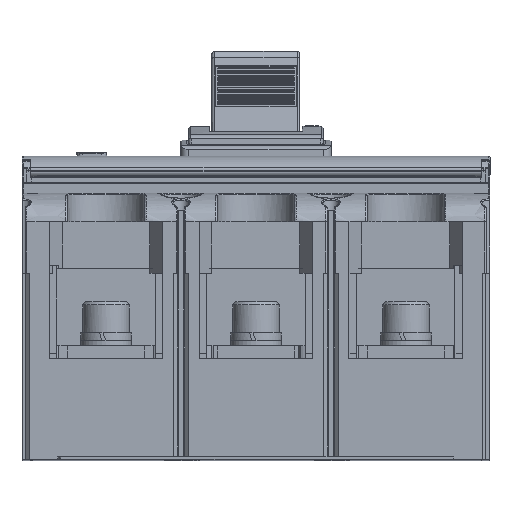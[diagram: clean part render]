
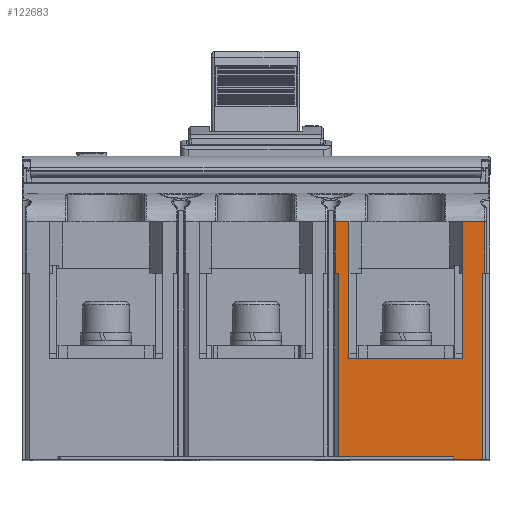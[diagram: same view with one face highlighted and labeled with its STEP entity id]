
A CAD part, top view. The second image highlights one B-rep face of the part: STEP entity #122683.
In plain terms, the highlighted planar face has unit normal (0, 0, 1).
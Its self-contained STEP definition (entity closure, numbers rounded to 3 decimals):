
#5517=DIRECTION('',(1.,0.,0.));
#5518=VECTOR('',#5517,1.1);
#5519=CARTESIAN_POINT('',(87.5,72.,135.));
#5520=LINE('',#5519,#5518);
#5645=DIRECTION('',(1.,0.,0.));
#5646=VECTOR('',#5645,10.9);
#5647=CARTESIAN_POINT('',(76.6,0.,135.));
#5648=LINE('',#5647,#5646);
#5653=DIRECTION('',(0.,-1.,0.));
#5654=VECTOR('',#5653,71.);
#5655=CARTESIAN_POINT('',(32.,72.,135.));
#5656=LINE('',#5655,#5654);
#5657=DIRECTION('',(0.,-1.,0.));
#5658=VECTOR('',#5657,20.);
#5659=CARTESIAN_POINT('',(30.9,92.,135.));
#5660=LINE('',#5659,#5658);
#5661=DIRECTION('',(1.,0.,0.));
#5662=VECTOR('',#5661,5.1);
#5663=CARTESIAN_POINT('',(30.9,92.,135.));
#5664=LINE('',#5663,#5662);
#5665=DIRECTION('',(1.,0.,0.));
#5666=VECTOR('',#5665,44.);
#5667=CARTESIAN_POINT('',(36.,39.,135.));
#5668=LINE('',#5667,#5666);
#5669=DIRECTION('',(1.,0.,0.));
#5670=VECTOR('',#5669,8.6);
#5671=CARTESIAN_POINT('',(80.,92.,135.));
#5672=LINE('',#5671,#5670);
#5673=DIRECTION('',(0.,-1.,0.));
#5674=VECTOR('',#5673,20.);
#5675=CARTESIAN_POINT('',(88.6,92.,135.));
#5676=LINE('',#5675,#5674);
#5677=DIRECTION('',(0.,1.,0.));
#5678=VECTOR('',#5677,72.);
#5679=CARTESIAN_POINT('',(87.5,0.,135.));
#5680=LINE('',#5679,#5678);
#5681=DIRECTION('',(0.,1.,0.));
#5682=VECTOR('',#5681,1.);
#5683=CARTESIAN_POINT('',(76.6,0.,135.));
#5684=LINE('',#5683,#5682);
#5685=DIRECTION('',(-1.,0.,0.));
#5686=VECTOR('',#5685,44.6);
#5687=CARTESIAN_POINT('',(76.6,1.,135.));
#5688=LINE('',#5687,#5686);
#5706=DIRECTION('',(1.,0.,0.));
#5707=VECTOR('',#5706,1.1);
#5708=CARTESIAN_POINT('',(30.9,72.,135.));
#5709=LINE('',#5708,#5707);
#17119=DIRECTION('',(0.,-1.,0.));
#17120=VECTOR('',#17119,53.);
#17121=CARTESIAN_POINT('',(80.,92.,135.));
#17122=LINE('',#17121,#17120);
#17275=DIRECTION('',(0.,1.,0.));
#17276=VECTOR('',#17275,53.);
#17277=CARTESIAN_POINT('',(36.,39.,135.));
#17278=LINE('',#17277,#17276);
#93905=CARTESIAN_POINT('',(36.,39.,135.));
#93906=CARTESIAN_POINT('',(80.,39.,135.));
#93907=VERTEX_POINT('',#93905);
#93908=VERTEX_POINT('',#93906);
#95121=CARTESIAN_POINT('',(76.6,0.,135.));
#95122=CARTESIAN_POINT('',(76.6,1.,135.));
#95123=VERTEX_POINT('',#95121);
#95124=VERTEX_POINT('',#95122);
#95854=CARTESIAN_POINT('',(87.5,0.,135.));
#95856=VERTEX_POINT('',#95854);
#95869=CARTESIAN_POINT('',(32.,1.,135.));
#95870=VERTEX_POINT('',#95869);
#101749=CARTESIAN_POINT('',(36.,92.,135.));
#101750=VERTEX_POINT('',#101749);
#101751=CARTESIAN_POINT('',(80.,92.,135.));
#101752=VERTEX_POINT('',#101751);
#105554=CARTESIAN_POINT('',(30.9,72.,135.));
#105556=VERTEX_POINT('',#105554);
#105560=CARTESIAN_POINT('',(30.9,92.,135.));
#105561=VERTEX_POINT('',#105560);
#105663=CARTESIAN_POINT('',(88.6,72.,135.));
#105665=VERTEX_POINT('',#105663);
#105666=CARTESIAN_POINT('',(88.6,92.,135.));
#105667=VERTEX_POINT('',#105666);
#108225=CARTESIAN_POINT('',(32.,72.,135.));
#108226=VERTEX_POINT('',#108225);
#108227=CARTESIAN_POINT('',(87.5,72.,135.));
#108228=VERTEX_POINT('',#108227);
#122651=CARTESIAN_POINT('',(-90.5,0.,135.));
#122652=DIRECTION('',(0.,0.,1.));
#122653=DIRECTION('',(1.,0.,0.));
#122654=AXIS2_PLACEMENT_3D('',#122651,#122652,#122653);
#122655=PLANE('',#122654);
#122657=ORIENTED_EDGE('',*,*,#122656,.F.);
#122659=ORIENTED_EDGE('',*,*,#122658,.F.);
#122661=ORIENTED_EDGE('',*,*,#122660,.F.);
#122663=ORIENTED_EDGE('',*,*,#122662,.T.);
#122665=ORIENTED_EDGE('',*,*,#122664,.F.);
#122667=ORIENTED_EDGE('',*,*,#122666,.T.);
#122669=ORIENTED_EDGE('',*,*,#122668,.F.);
#122671=ORIENTED_EDGE('',*,*,#122670,.T.);
#122673=ORIENTED_EDGE('',*,*,#122672,.T.);
#122674=ORIENTED_EDGE('',*,*,#122547,.F.);
#122675=ORIENTED_EDGE('',*,*,#122646,.F.);
#122676=ORIENTED_EDGE('',*,*,#122633,.F.);
#122678=ORIENTED_EDGE('',*,*,#122677,.T.);
#122680=ORIENTED_EDGE('',*,*,#122679,.T.);
#122681=EDGE_LOOP('',(#122657,#122659,#122661,#122663,#122665,#122667,#122669,
#122671,#122673,#122674,#122675,#122676,#122678,#122680));
#122682=FACE_OUTER_BOUND('',#122681,.F.);
#122683=ADVANCED_FACE('',(#122682),#122655,.T.);
#122547=EDGE_CURVE('',#108228,#105665,#5520,.T.);
#122633=EDGE_CURVE('',#95123,#95856,#5648,.T.);
#122646=EDGE_CURVE('',#95856,#108228,#5680,.T.);
#122656=EDGE_CURVE('',#108226,#95870,#5656,.T.);
#122658=EDGE_CURVE('',#105556,#108226,#5709,.T.);
#122660=EDGE_CURVE('',#105561,#105556,#5660,.T.);
#122662=EDGE_CURVE('',#105561,#101750,#5664,.T.);
#122664=EDGE_CURVE('',#93907,#101750,#17278,.T.);
#122666=EDGE_CURVE('',#93907,#93908,#5668,.T.);
#122668=EDGE_CURVE('',#101752,#93908,#17122,.T.);
#122670=EDGE_CURVE('',#101752,#105667,#5672,.T.);
#122672=EDGE_CURVE('',#105667,#105665,#5676,.T.);
#122677=EDGE_CURVE('',#95123,#95124,#5684,.T.);
#122679=EDGE_CURVE('',#95124,#95870,#5688,.T.);
